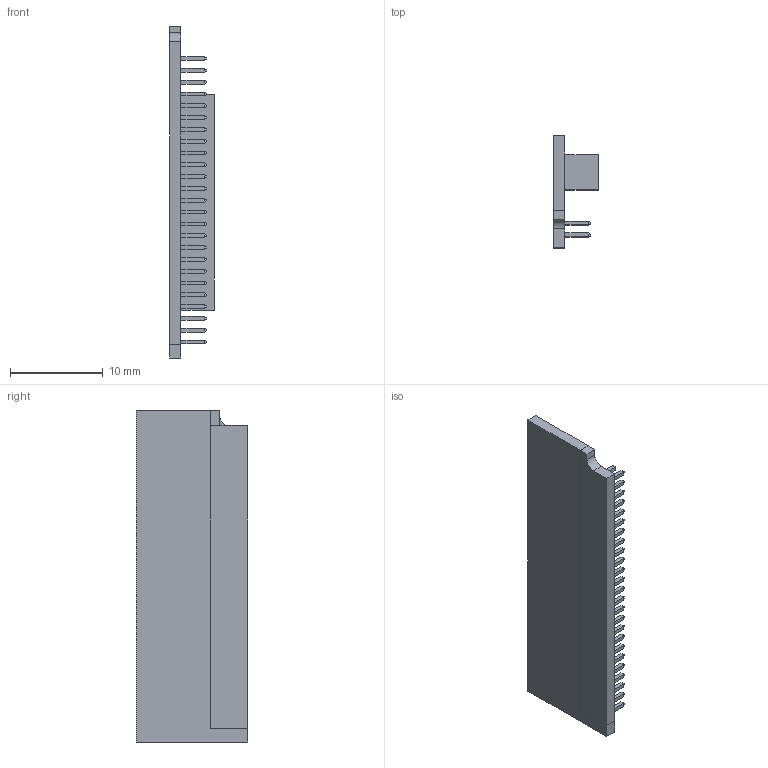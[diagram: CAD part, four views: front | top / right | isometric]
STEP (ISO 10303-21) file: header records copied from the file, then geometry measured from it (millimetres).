
FILE_DESCRIPTION(/* description */ ('VariCAD 2008 1.04 AP-203'),/* implementation_level */ '2;1');
FILE_NAME(/* name */ '0353-00-07',/* time_stamp */ '2008-06-03T11:36:19-06:00',/* author */ (''),/* organization */ (''),/* preprocessor_version */ 'ST-DEVELOPER v10',/* originating_system */ 'VariCAD 2008 1.04; kernel version (20071230)',/* authorisation */ '');
FILE_SCHEMA (('CONFIG_CONTROL_DESIGN'));
Length unit declared in the file: millimetre
Products named in the file (1): Part
Bounding box: 4.8 x 12 x 35.7 mm (x, y, z)
Volume: 847.5 mm3; surface area: 1369.1 mm2
Topology: 1 solids, 1 shells, 472 faces, 1051 edges, 632 vertices
Faces by surface type: plane 471, cylinder 1
Entity records: 12555 total; most frequent: CARTESIAN_POINT 2157, ORIENTED_EDGE 2102, DIRECTION 2001, EDGE_CURVE 1051, LINE 1049, VECTOR 1049, VERTEX_POINT 632, EDGE_LOOP 523
